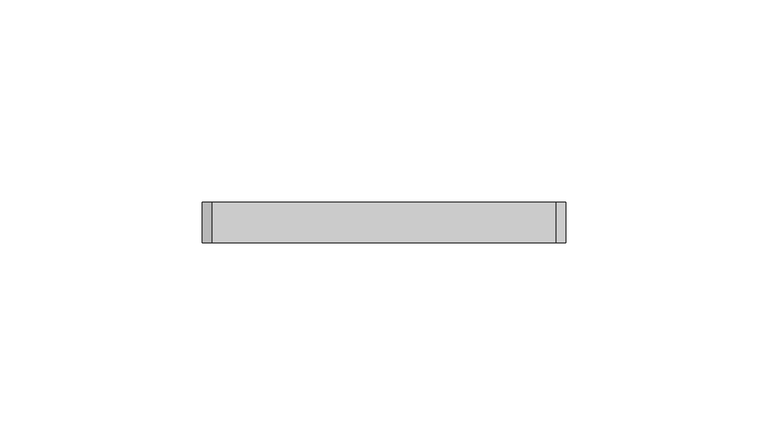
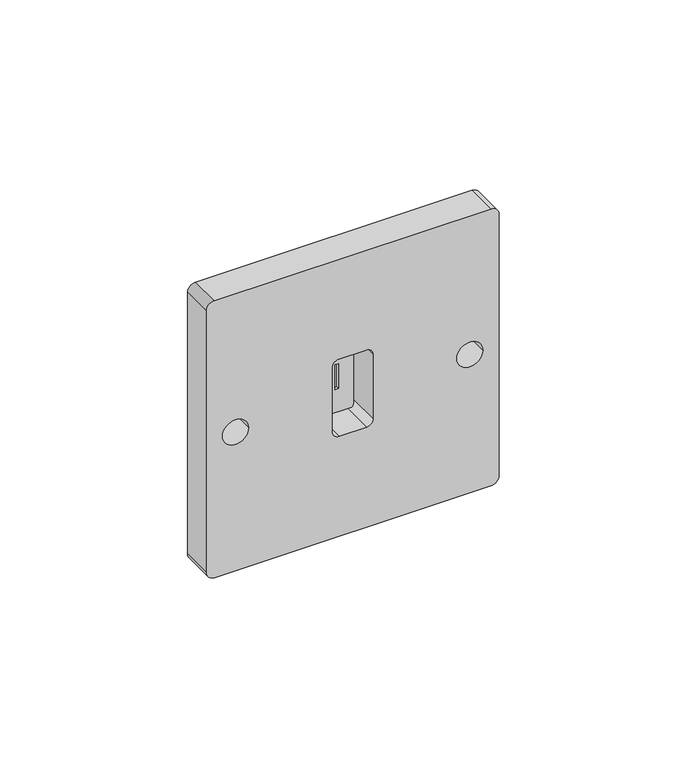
"""IFC4 building model written with IfcOpenShell, lengths in millimetres: proxy geometry, BIMHealth-Fish_Switch-LOD2A-v1 : BIMHealth-Fish_Switch-LOD2A-v1."""

from ifc_helpers import new_model, si_unit, point, frame, frame_2d, origin, place, context, project, spatial, polyline, circle_curve, trimmed, segment, composite_curve, outline, extrude, source, transform, mapped, element, save


def electrical_fixtures_90023378(model_context):
    return source(origin(), model_context, "Body", "SweptSolid", [
        extrude(outline(composite_curve([segment(polyline([(1256.5200834, 4.4273779), (1256.5200834, -4.0726221)]), True, "CONTINUOUS"), segment(trimmed(circle_curve(frame_2d((1255.5200834, -4.0726221)), 1.0), [point((1256.5200834, -4.0726221))], [point((1255.5200834, -5.0726221))], False, "CARTESIAN"), True, "CONTINUOUS"), segment(polyline([(1255.5200834, -5.0726221), (1234.5200834, -5.0726221)]), True, "CONTINUOUS"), segment(trimmed(circle_curve(frame_2d((1234.5200834, -4.0726221)), 1.0), [point((1234.5200834, -5.0726221))], [point((1233.5200834, -4.0726221))], False, "CARTESIAN"), True, "CONTINUOUS"), segment(polyline([(1233.5200834, -4.0726221), (1233.5200834, 4.4273779)]), True, "CONTINUOUS"), segment(trimmed(circle_curve(frame_2d((1234.5200834, 4.4273779)), 1.0), [point((1233.5200834, 4.4273779))], [point((1234.5200834, 5.4273779))], False, "CARTESIAN"), True, "CONTINUOUS"), segment(polyline([(1234.5200834, 5.4273779), (1255.5200834, 5.4273779)]), True, "CONTINUOUS"), segment(trimmed(circle_curve(frame_2d((1255.5200834, 4.4273779)), 1.0), [point((1255.5200834, 5.4273779))], [point((1256.5200834, 4.4273779))], False, "CARTESIAN"), True, "CONTINUOUS")], self_intersect=False), holes=[polyline([(1249.0200834, -0.1452442), (1249.0200834, 0.8547558), (1241.0200834, 0.8547558), (1241.0200834, -0.1452442), (1249.0200834, -0.1452442)])]), frame((0.0, 8.75, 0.0), z_axis=(0.0, 1.0, 0.0), x_axis=(0.0, 0.0, 1.0)), (0.0, 0.0, 1.0), 1.0),
        extrude(outline(composite_curve([segment(trimmed(circle_curve(frame_2d((1287.4914739, -42.3226221)), 2.5), [point((1289.9914739, -42.3226221))], [point((1287.4914739, -44.8226221))], False, "CARTESIAN"), True, "CONTINUOUS"), segment(polyline([(1287.4914739, -44.8226221), (1202.4914739, -44.8226221)]), True, "CONTINUOUS"), segment(trimmed(circle_curve(frame_2d((1202.4914739, -42.3226221)), 2.5), [point((1202.4914739, -44.8226221))], [point((1199.9914739, -42.3226221))], False, "CARTESIAN"), True, "CONTINUOUS"), segment(polyline([(1199.9914739, -42.3226221), (1199.9914739, 42.6773779)]), True, "CONTINUOUS"), segment(trimmed(circle_curve(frame_2d((1202.4914739, 42.6773779)), 2.5), [point((1199.9914739, 42.6773779))], [point((1202.4914739, 45.1773779))], False, "CARTESIAN"), True, "CONTINUOUS"), segment(polyline([(1202.4914739, 45.1773779), (1287.4914739, 45.1773779)]), True, "CONTINUOUS"), segment(trimmed(circle_curve(frame_2d((1287.4914739, 42.6773779)), 2.5), [point((1287.4914739, 45.1773779))], [point((1289.9914739, 42.6773779))], False, "CARTESIAN"), True, "CONTINUOUS"), segment(polyline([(1289.9914739, 42.6773779), (1289.9914739, -42.3226221)]), True, "CONTINUOUS")], self_intersect=False), holes=[composite_curve([segment(trimmed(circle_curve(frame_2d((1245.0200834, 36.2102541)), 4.0), [point((1245.0200834, 40.2102541))], [point((1245.0200834, 32.2102541))], True, "CARTESIAN"), True, "CONTINUOUS"), segment(trimmed(circle_curve(frame_2d((1245.0200834, 36.2102541)), 4.0), [point((1245.0200834, 32.2102541))], [point((1245.0200834, 40.2102541))], True, "CARTESIAN"), True, "CONTINUOUS")], self_intersect=False), composite_curve([segment(trimmed(circle_curve(frame_2d((1245.0200834, -35.8554983)), 4.0), [point((1245.0200834, -39.8554983))], [point((1245.0200834, -31.8554983))], True, "CARTESIAN"), True, "CONTINUOUS"), segment(trimmed(circle_curve(frame_2d((1245.0200834, -35.8554983)), 4.0), [point((1245.0200834, -31.8554983))], [point((1245.0200834, -39.8554983))], True, "CARTESIAN"), True, "CONTINUOUS")], self_intersect=False), composite_curve([segment(polyline([(1257.5200834, -4.0726221), (1257.5200834, 4.4273779)]), True, "CONTINUOUS"), segment(trimmed(circle_curve(frame_2d((1255.5200834, 4.4273779)), 2.0), [point((1257.5200834, 4.4273779))], [point((1255.5200834, 6.4273779))], True, "CARTESIAN"), True, "CONTINUOUS"), segment(polyline([(1255.5200834, 6.4273779), (1234.5200834, 6.4273779)]), True, "CONTINUOUS"), segment(trimmed(circle_curve(frame_2d((1234.5200834, 4.4273779)), 2.0), [point((1234.5200834, 6.4273779))], [point((1232.5200834, 4.4273779))], True, "CARTESIAN"), True, "CONTINUOUS"), segment(polyline([(1232.5200834, 4.4273779), (1232.5200834, -4.0726221)]), True, "CONTINUOUS"), segment(trimmed(circle_curve(frame_2d((1234.5200834, -4.0726221)), 2.0), [point((1232.5200834, -4.0726221))], [point((1234.5200834, -6.0726221))], True, "CARTESIAN"), True, "CONTINUOUS"), segment(polyline([(1234.5200834, -6.0726221), (1255.5200834, -6.0726221)]), True, "CONTINUOUS"), segment(trimmed(circle_curve(frame_2d((1255.5200834, -4.0726221)), 2.0), [point((1255.5200834, -6.0726221))], [point((1257.5200834, -4.0726221))], True, "CARTESIAN"), True, "CONTINUOUS")], self_intersect=False)]), frame((0.0, 0.0, 0.0), z_axis=(0.0, 1.0, 0.0), x_axis=(0.0, 0.0, 1.0)), (0.0, 0.0, 1.0), 10.0),
    ])


if __name__ == "__main__":
    model = new_model("IFC4")
    model_context = context("Model", 3, world=origin())
    ifc_project = project(units=[si_unit("LENGTHUNIT", "METRE", prefix="MILLI")], contexts=[model_context])
    site = spatial("IfcSite", under=ifc_project)
    building = spatial("IfcBuilding", under=site)
    placement = place(None, origin())
    electrical_fixtures_shape = electrical_fixtures_90023378(model_context)
    element("IfcBuildingElementProxy", 1, Name="BIMHealth-Fish_Switch-LOD2A-v1 : BIMHealth-Fish_Switch-LOD2A-v1", ObjectType="BIMHealth-Fish_Switch-LOD2A-v1 : BIMHealth-Fish_Switch-LOD2A-v1", at=placement, inside=building, context=model_context, shape_type="MappedRepresentation", body=[
        mapped(electrical_fixtures_shape, transform((0.0, 0.0, 0.0), x_axis=(1.0, 0.0, 0.0), y_axis=(0.0, 1.0, 0.0), z_axis=(0.0, 0.0, 1.0))),
    ])
    save(model, "model.ifc")
